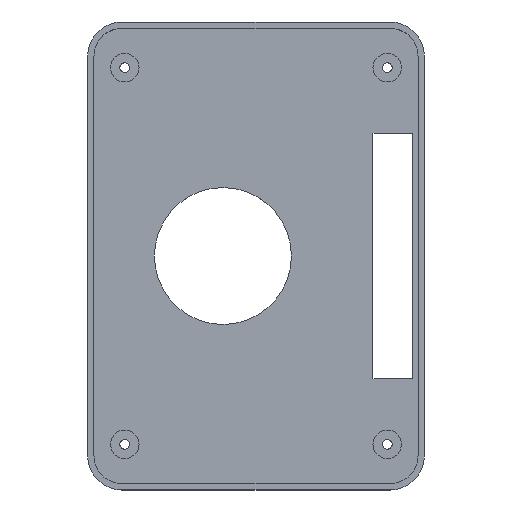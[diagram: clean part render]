
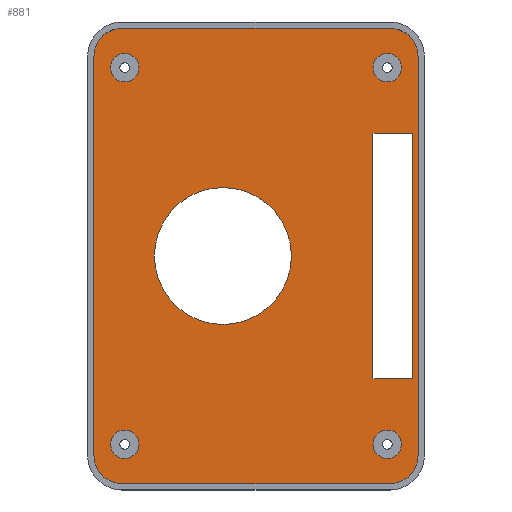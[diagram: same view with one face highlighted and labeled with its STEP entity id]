
A CAD part, top view. The second image highlights one B-rep face of the part: STEP entity #881.
In plain terms, the highlighted planar face has unit normal (0, 0, 1).
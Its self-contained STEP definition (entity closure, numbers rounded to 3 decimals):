
#468 = EDGE_CURVE('',#469,#471,#473,.T.);
#469 = VERTEX_POINT('',#470);
#470 = CARTESIAN_POINT('',(-23.5,-39.9,2.));
#471 = VERTEX_POINT('',#472);
#472 = CARTESIAN_POINT('',(23.5,-39.9,2.));
#473 = LINE('',#474,#475);
#474 = CARTESIAN_POINT('',(-23.5,-39.9,2.));
#475 = VECTOR('',#476,1.);
#476 = DIRECTION('',(1.,0.,0.));
#500 = VERTEX_POINT('',#501);
#501 = CARTESIAN_POINT('',(28.4,-35.,2.));
#507 = EDGE_CURVE('',#471,#500,#508,.T.);
#508 = CIRCLE('',#509,4.9);
#509 = AXIS2_PLACEMENT_3D('',#510,#511,#512);
#510 = CARTESIAN_POINT('',(23.5,-35.,2.));
#511 = DIRECTION('',(0.,0.,1.));
#512 = DIRECTION('',(1.,0.,0.));
#525 = EDGE_CURVE('',#500,#526,#528,.T.);
#526 = VERTEX_POINT('',#527);
#527 = CARTESIAN_POINT('',(28.4,35.,2.));
#528 = LINE('',#529,#530);
#529 = CARTESIAN_POINT('',(28.4,-35.,2.));
#530 = VECTOR('',#531,1.);
#531 = DIRECTION('',(0.,1.,0.));
#548 = EDGE_CURVE('',#526,#549,#551,.T.);
#549 = VERTEX_POINT('',#550);
#550 = CARTESIAN_POINT('',(23.5,39.9,2.));
#551 = CIRCLE('',#552,4.9);
#552 = AXIS2_PLACEMENT_3D('',#553,#554,#555);
#553 = CARTESIAN_POINT('',(23.5,35.,2.));
#554 = DIRECTION('',(0.,0.,1.));
#555 = DIRECTION('',(1.,0.,0.));
#573 = EDGE_CURVE('',#574,#549,#576,.T.);
#574 = VERTEX_POINT('',#575);
#575 = CARTESIAN_POINT('',(-23.5,39.9,2.));
#576 = LINE('',#577,#578);
#577 = CARTESIAN_POINT('',(-23.5,39.9,2.));
#578 = VECTOR('',#579,1.);
#579 = DIRECTION('',(1.,0.,0.));
#597 = EDGE_CURVE('',#574,#598,#600,.T.);
#598 = VERTEX_POINT('',#599);
#599 = CARTESIAN_POINT('',(-28.4,35.,2.));
#600 = CIRCLE('',#601,4.9);
#601 = AXIS2_PLACEMENT_3D('',#602,#603,#604);
#602 = CARTESIAN_POINT('',(-23.5,35.,2.));
#603 = DIRECTION('',(0.,0.,1.));
#604 = DIRECTION('',(1.,0.,0.));
#623 = VERTEX_POINT('',#624);
#624 = CARTESIAN_POINT('',(-28.4,-35.,2.));
#630 = EDGE_CURVE('',#623,#598,#631,.T.);
#631 = LINE('',#632,#633);
#632 = CARTESIAN_POINT('',(-28.4,-35.,2.));
#633 = VECTOR('',#634,1.);
#634 = DIRECTION('',(0.,1.,0.));
#647 = EDGE_CURVE('',#623,#469,#648,.T.);
#648 = CIRCLE('',#649,4.9);
#649 = AXIS2_PLACEMENT_3D('',#650,#651,#652);
#650 = CARTESIAN_POINT('',(-23.5,-35.,2.));
#651 = DIRECTION('',(0.,0.,1.));
#652 = DIRECTION('',(1.,0.,0.));
#715 = VERTEX_POINT('',#716);
#716 = CARTESIAN_POINT('',(27.5,21.5,2.));
#724 = VERTEX_POINT('',#725);
#725 = CARTESIAN_POINT('',(20.5,21.5,2.));
#731 = EDGE_CURVE('',#724,#715,#732,.T.);
#732 = LINE('',#733,#734);
#733 = CARTESIAN_POINT('',(10.25,21.5,2.));
#734 = VECTOR('',#735,1.);
#735 = DIRECTION('',(1.,0.,0.));
#746 = VERTEX_POINT('',#747);
#747 = CARTESIAN_POINT('',(27.5,-21.5,2.));
#755 = EDGE_CURVE('',#715,#746,#756,.T.);
#756 = LINE('',#757,#758);
#757 = CARTESIAN_POINT('',(27.5,-10.75,2.));
#758 = VECTOR('',#759,1.);
#759 = DIRECTION('',(0.,-1.,0.));
#772 = VERTEX_POINT('',#773);
#773 = CARTESIAN_POINT('',(20.5,-21.5,2.));
#779 = EDGE_CURVE('',#772,#746,#780,.T.);
#780 = LINE('',#781,#782);
#781 = CARTESIAN_POINT('',(10.25,-21.5,2.));
#782 = VECTOR('',#783,1.);
#783 = DIRECTION('',(1.,0.,0.));
#796 = EDGE_CURVE('',#724,#772,#797,.T.);
#797 = LINE('',#798,#799);
#798 = CARTESIAN_POINT('',(20.5,-10.75,2.));
#799 = VECTOR('',#800,1.);
#800 = DIRECTION('',(0.,-1.,0.));
#837 = VERTEX_POINT('',#838);
#838 = CARTESIAN_POINT('',(6.2,0.,2.));
#844 = EDGE_CURVE('',#837,#837,#845,.T.);
#845 = CIRCLE('',#846,12.);
#846 = AXIS2_PLACEMENT_3D('',#847,#848,#849);
#847 = CARTESIAN_POINT('',(-5.8,0.,2.));
#848 = DIRECTION('',(0.,0.,-1.));
#849 = DIRECTION('',(1.,0.,0.));
#881 = ADVANCED_FACE('',(#882,#892,#903,#914,#920,#931,#934),#945,.F.);
#882 = FACE_BOUND('',#883,.F.);
#883 = EDGE_LOOP('',(#884,#885,#886,#887,#888,#889,#890,#891));
#884 = ORIENTED_EDGE('',*,*,#647,.F.);
#885 = ORIENTED_EDGE('',*,*,#630,.T.);
#886 = ORIENTED_EDGE('',*,*,#597,.F.);
#887 = ORIENTED_EDGE('',*,*,#573,.T.);
#888 = ORIENTED_EDGE('',*,*,#548,.F.);
#889 = ORIENTED_EDGE('',*,*,#525,.F.);
#890 = ORIENTED_EDGE('',*,*,#507,.F.);
#891 = ORIENTED_EDGE('',*,*,#468,.F.);
#892 = FACE_BOUND('',#893,.F.);
#893 = EDGE_LOOP('',(#894));
#894 = ORIENTED_EDGE('',*,*,#895,.F.);
#895 = EDGE_CURVE('',#896,#896,#898,.T.);
#896 = VERTEX_POINT('',#897);
#897 = CARTESIAN_POINT('',(25.5,-33.,2.));
#898 = CIRCLE('',#899,2.5);
#899 = AXIS2_PLACEMENT_3D('',#900,#901,#902);
#900 = CARTESIAN_POINT('',(23.,-33.,2.));
#901 = DIRECTION('',(0.,0.,-1.));
#902 = DIRECTION('',(1.,0.,0.));
#903 = FACE_BOUND('',#904,.F.);
#904 = EDGE_LOOP('',(#905));
#905 = ORIENTED_EDGE('',*,*,#906,.F.);
#906 = EDGE_CURVE('',#907,#907,#909,.T.);
#907 = VERTEX_POINT('',#908);
#908 = CARTESIAN_POINT('',(-20.5,-33.,2.));
#909 = CIRCLE('',#910,2.5);
#910 = AXIS2_PLACEMENT_3D('',#911,#912,#913);
#911 = CARTESIAN_POINT('',(-23.,-33.,2.));
#912 = DIRECTION('',(0.,0.,-1.));
#913 = DIRECTION('',(1.,0.,0.));
#914 = FACE_BOUND('',#915,.F.);
#915 = EDGE_LOOP('',(#916,#917,#918,#919));
#916 = ORIENTED_EDGE('',*,*,#731,.F.);
#917 = ORIENTED_EDGE('',*,*,#796,.T.);
#918 = ORIENTED_EDGE('',*,*,#779,.T.);
#919 = ORIENTED_EDGE('',*,*,#755,.F.);
#920 = FACE_BOUND('',#921,.F.);
#921 = EDGE_LOOP('',(#922));
#922 = ORIENTED_EDGE('',*,*,#923,.F.);
#923 = EDGE_CURVE('',#924,#924,#926,.T.);
#924 = VERTEX_POINT('',#925);
#925 = CARTESIAN_POINT('',(25.5,33.,2.));
#926 = CIRCLE('',#927,2.5);
#927 = AXIS2_PLACEMENT_3D('',#928,#929,#930);
#928 = CARTESIAN_POINT('',(23.,33.,2.));
#929 = DIRECTION('',(0.,0.,-1.));
#930 = DIRECTION('',(1.,0.,0.));
#931 = FACE_BOUND('',#932,.F.);
#932 = EDGE_LOOP('',(#933));
#933 = ORIENTED_EDGE('',*,*,#844,.F.);
#934 = FACE_BOUND('',#935,.F.);
#935 = EDGE_LOOP('',(#936));
#936 = ORIENTED_EDGE('',*,*,#937,.F.);
#937 = EDGE_CURVE('',#938,#938,#940,.T.);
#938 = VERTEX_POINT('',#939);
#939 = CARTESIAN_POINT('',(-20.5,33.,2.));
#940 = CIRCLE('',#941,2.5);
#941 = AXIS2_PLACEMENT_3D('',#942,#943,#944);
#942 = CARTESIAN_POINT('',(-23.,33.,2.));
#943 = DIRECTION('',(0.,0.,-1.));
#944 = DIRECTION('',(1.,0.,0.));
#945 = PLANE('',#946);
#946 = AXIS2_PLACEMENT_3D('',#947,#948,#949);
#947 = CARTESIAN_POINT('',(0.,0.,2.));
#948 = DIRECTION('',(-0.,-0.,-1.));
#949 = DIRECTION('',(-1.,0.,0.));
